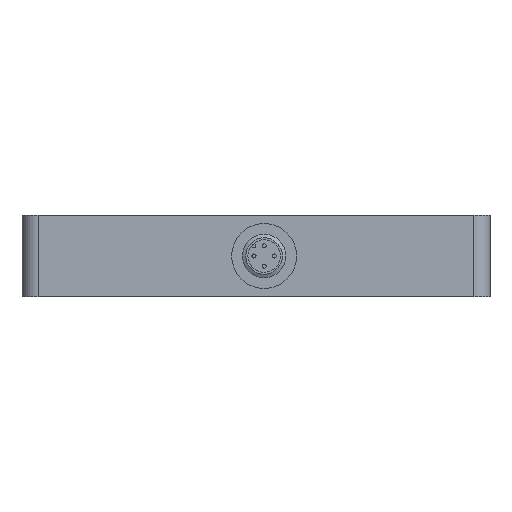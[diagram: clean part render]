
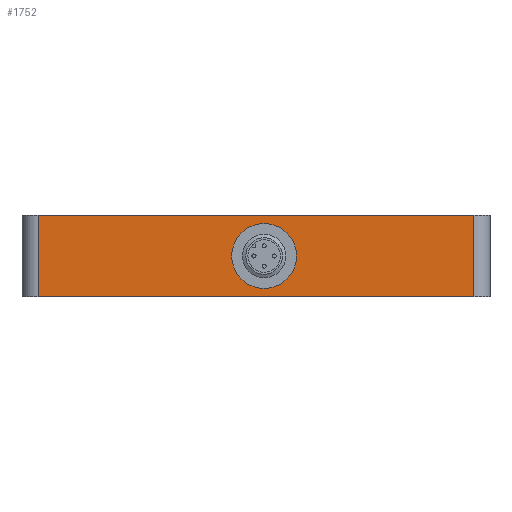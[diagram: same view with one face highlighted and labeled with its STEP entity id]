
A CAD part, front view. The second image highlights one B-rep face of the part: STEP entity #1752.
In plain terms, the highlighted planar face has unit normal (0, -1, 0).
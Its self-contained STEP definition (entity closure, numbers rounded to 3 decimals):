
#1752 = ADVANCED_FACE('',(#1753),#1767,.F.);
#1753 = FACE_BOUND('',#1754,.F.);
#1754 = EDGE_LOOP('',(#1755,#1790,#1818,#1846));
#1755 = ORIENTED_EDGE('',*,*,#1756,.T.);
#1756 = EDGE_CURVE('',#1757,#1759,#1761,.T.);
#1757 = VERTEX_POINT('',#1758);
#1758 = CARTESIAN_POINT('',(-53.75,-92.5,0.));
#1759 = VERTEX_POINT('',#1760);
#1760 = CARTESIAN_POINT('',(-53.75,-92.5,20.));
#1761 = SURFACE_CURVE('',#1762,(#1766,#1778),.PCURVE_S1.);
#1762 = LINE('',#1763,#1764);
#1763 = CARTESIAN_POINT('',(-53.75,-92.5,0.));
#1764 = VECTOR('',#1765,1.);
#1765 = DIRECTION('',(0.,0.,1.));
#1766 = PCURVE('',#1767,#1772);
#1767 = PLANE('',#1768);
#1768 = AXIS2_PLACEMENT_3D('',#1769,#1770,#1771);
#1769 = CARTESIAN_POINT('',(-53.75,-92.5,0.));
#1770 = DIRECTION('',(0.,1.,0.));
#1771 = DIRECTION('',(1.,0.,0.));
#1772 = DEFINITIONAL_REPRESENTATION('',(#1773),#1777);
#1773 = LINE('',#1774,#1775);
#1774 = CARTESIAN_POINT('',(0.,0.));
#1775 = VECTOR('',#1776,1.);
#1776 = DIRECTION('',(0.,-1.));
#1777 = ( GEOMETRIC_REPRESENTATION_CONTEXT(2) 
PARAMETRIC_REPRESENTATION_CONTEXT() REPRESENTATION_CONTEXT('2D SPACE',''
  ) );
#1778 = PCURVE('',#1779,#1784);
#1779 = CYLINDRICAL_SURFACE('',#1780,4.);
#1780 = AXIS2_PLACEMENT_3D('',#1781,#1782,#1783);
#1781 = CARTESIAN_POINT('',(-53.75,-88.5,0.));
#1782 = DIRECTION('',(-0.,-0.,-1.));
#1783 = DIRECTION('',(1.,0.,0.));
#1784 = DEFINITIONAL_REPRESENTATION('',(#1785),#1789);
#1785 = LINE('',#1786,#1787);
#1786 = CARTESIAN_POINT('',(-4.712,0.));
#1787 = VECTOR('',#1788,1.);
#1788 = DIRECTION('',(-0.,-1.));
#1789 = ( GEOMETRIC_REPRESENTATION_CONTEXT(2) 
PARAMETRIC_REPRESENTATION_CONTEXT() REPRESENTATION_CONTEXT('2D SPACE',''
  ) );
#1790 = ORIENTED_EDGE('',*,*,#1791,.T.);
#1791 = EDGE_CURVE('',#1759,#1792,#1794,.T.);
#1792 = VERTEX_POINT('',#1793);
#1793 = CARTESIAN_POINT('',(53.75,-92.5,20.));
#1794 = SURFACE_CURVE('',#1795,(#1799,#1806),.PCURVE_S1.);
#1795 = LINE('',#1796,#1797);
#1796 = CARTESIAN_POINT('',(-53.75,-92.5,20.));
#1797 = VECTOR('',#1798,1.);
#1798 = DIRECTION('',(1.,0.,0.));
#1799 = PCURVE('',#1767,#1800);
#1800 = DEFINITIONAL_REPRESENTATION('',(#1801),#1805);
#1801 = LINE('',#1802,#1803);
#1802 = CARTESIAN_POINT('',(0.,-20.));
#1803 = VECTOR('',#1804,1.);
#1804 = DIRECTION('',(1.,0.));
#1805 = ( GEOMETRIC_REPRESENTATION_CONTEXT(2) 
PARAMETRIC_REPRESENTATION_CONTEXT() REPRESENTATION_CONTEXT('2D SPACE',''
  ) );
#1806 = PCURVE('',#1807,#1812);
#1807 = PLANE('',#1808);
#1808 = AXIS2_PLACEMENT_3D('',#1809,#1810,#1811);
#1809 = CARTESIAN_POINT('',(0.,-27.926,20.));
#1810 = DIRECTION('',(0.,0.,1.));
#1811 = DIRECTION('',(1.,0.,0.));
#1812 = DEFINITIONAL_REPRESENTATION('',(#1813),#1817);
#1813 = LINE('',#1814,#1815);
#1814 = CARTESIAN_POINT('',(-53.75,-64.574));
#1815 = VECTOR('',#1816,1.);
#1816 = DIRECTION('',(1.,0.));
#1817 = ( GEOMETRIC_REPRESENTATION_CONTEXT(2) 
PARAMETRIC_REPRESENTATION_CONTEXT() REPRESENTATION_CONTEXT('2D SPACE',''
  ) );
#1818 = ORIENTED_EDGE('',*,*,#1819,.F.);
#1819 = EDGE_CURVE('',#1820,#1792,#1822,.T.);
#1820 = VERTEX_POINT('',#1821);
#1821 = CARTESIAN_POINT('',(53.75,-92.5,0.));
#1822 = SURFACE_CURVE('',#1823,(#1827,#1834),.PCURVE_S1.);
#1823 = LINE('',#1824,#1825);
#1824 = CARTESIAN_POINT('',(53.75,-92.5,0.));
#1825 = VECTOR('',#1826,1.);
#1826 = DIRECTION('',(0.,0.,1.));
#1827 = PCURVE('',#1767,#1828);
#1828 = DEFINITIONAL_REPRESENTATION('',(#1829),#1833);
#1829 = LINE('',#1830,#1831);
#1830 = CARTESIAN_POINT('',(107.5,0.));
#1831 = VECTOR('',#1832,1.);
#1832 = DIRECTION('',(0.,-1.));
#1833 = ( GEOMETRIC_REPRESENTATION_CONTEXT(2) 
PARAMETRIC_REPRESENTATION_CONTEXT() REPRESENTATION_CONTEXT('2D SPACE',''
  ) );
#1834 = PCURVE('',#1835,#1840);
#1835 = CYLINDRICAL_SURFACE('',#1836,4.);
#1836 = AXIS2_PLACEMENT_3D('',#1837,#1838,#1839);
#1837 = CARTESIAN_POINT('',(53.75,-88.5,0.));
#1838 = DIRECTION('',(-0.,-0.,-1.));
#1839 = DIRECTION('',(1.,0.,0.));
#1840 = DEFINITIONAL_REPRESENTATION('',(#1841),#1845);
#1841 = LINE('',#1842,#1843);
#1842 = CARTESIAN_POINT('',(-4.712,0.));
#1843 = VECTOR('',#1844,1.);
#1844 = DIRECTION('',(-0.,-1.));
#1845 = ( GEOMETRIC_REPRESENTATION_CONTEXT(2) 
PARAMETRIC_REPRESENTATION_CONTEXT() REPRESENTATION_CONTEXT('2D SPACE',''
  ) );
#1846 = ORIENTED_EDGE('',*,*,#1847,.F.);
#1847 = EDGE_CURVE('',#1757,#1820,#1848,.T.);
#1848 = SURFACE_CURVE('',#1849,(#1853,#1860),.PCURVE_S1.);
#1849 = LINE('',#1850,#1851);
#1850 = CARTESIAN_POINT('',(-53.75,-92.5,0.));
#1851 = VECTOR('',#1852,1.);
#1852 = DIRECTION('',(1.,0.,0.));
#1853 = PCURVE('',#1767,#1854);
#1854 = DEFINITIONAL_REPRESENTATION('',(#1855),#1859);
#1855 = LINE('',#1856,#1857);
#1856 = CARTESIAN_POINT('',(0.,0.));
#1857 = VECTOR('',#1858,1.);
#1858 = DIRECTION('',(1.,0.));
#1859 = ( GEOMETRIC_REPRESENTATION_CONTEXT(2) 
PARAMETRIC_REPRESENTATION_CONTEXT() REPRESENTATION_CONTEXT('2D SPACE',''
  ) );
#1860 = PCURVE('',#1861,#1866);
#1861 = PLANE('',#1862);
#1862 = AXIS2_PLACEMENT_3D('',#1863,#1864,#1865);
#1863 = CARTESIAN_POINT('',(0.,-27.926,0.));
#1864 = DIRECTION('',(0.,0.,1.));
#1865 = DIRECTION('',(1.,0.,0.));
#1866 = DEFINITIONAL_REPRESENTATION('',(#1867),#1871);
#1867 = LINE('',#1868,#1869);
#1868 = CARTESIAN_POINT('',(-53.75,-64.574));
#1869 = VECTOR('',#1870,1.);
#1870 = DIRECTION('',(1.,0.));
#1871 = ( GEOMETRIC_REPRESENTATION_CONTEXT(2) 
PARAMETRIC_REPRESENTATION_CONTEXT() REPRESENTATION_CONTEXT('2D SPACE',''
  ) );
